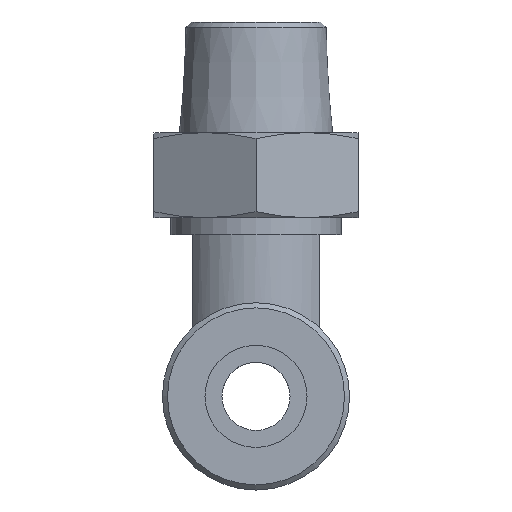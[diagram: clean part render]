
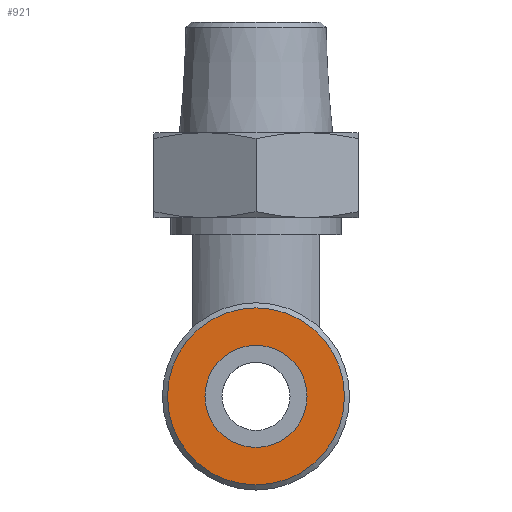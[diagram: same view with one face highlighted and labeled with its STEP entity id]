
A CAD part, front view. The second image highlights one B-rep face of the part: STEP entity #921.
In plain terms, the highlighted planar face has unit normal (0, -1, 0).
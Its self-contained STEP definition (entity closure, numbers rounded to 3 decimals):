
#47=FACE_BOUND('',#205,.T.);
#68=PLANE('',#1046);
#136=FACE_OUTER_BOUND('',#204,.T.);
#204=EDGE_LOOP('',(#776));
#205=EDGE_LOOP('',(#777));
#344=CIRCLE('',#1026,3.);
#353=CIRCLE('',#1043,5.2);
#429=VERTEX_POINT('',#1599);
#439=VERTEX_POINT('',#1634);
#538=EDGE_CURVE('',#429,#429,#344,.T.);
#556=EDGE_CURVE('',#439,#439,#353,.T.);
#776=ORIENTED_EDGE('',*,*,#556,.F.);
#777=ORIENTED_EDGE('',*,*,#538,.T.);
#921=ADVANCED_FACE('',(#136,#47),#68,.F.);
#1026=AXIS2_PLACEMENT_3D('',#1600,#1240,#1241);
#1043=AXIS2_PLACEMENT_3D('',#1636,#1283,#1284);
#1046=AXIS2_PLACEMENT_3D('',#1641,#1290,#1291);
#1240=DIRECTION('center_axis',(0.,1.,0.));
#1241=DIRECTION('ref_axis',(1.,0.,0.));
#1283=DIRECTION('center_axis',(0.,1.,0.));
#1284=DIRECTION('ref_axis',(-1.,0.,0.));
#1290=DIRECTION('center_axis',(0.,1.,0.));
#1291=DIRECTION('ref_axis',(0.,0.,1.));
#1599=CARTESIAN_POINT('',(-3.,-21.2,0.));
#1600=CARTESIAN_POINT('Origin',(0.,-21.2,0.));
#1634=CARTESIAN_POINT('',(5.2,-21.2,0.));
#1636=CARTESIAN_POINT('Origin',(0.,-21.2,0.));
#1641=CARTESIAN_POINT('Origin',(0.,-21.2,0.));
